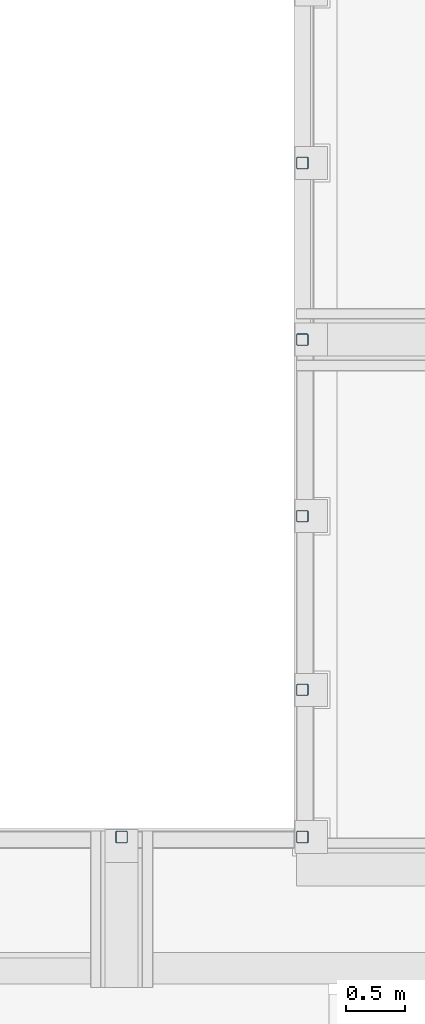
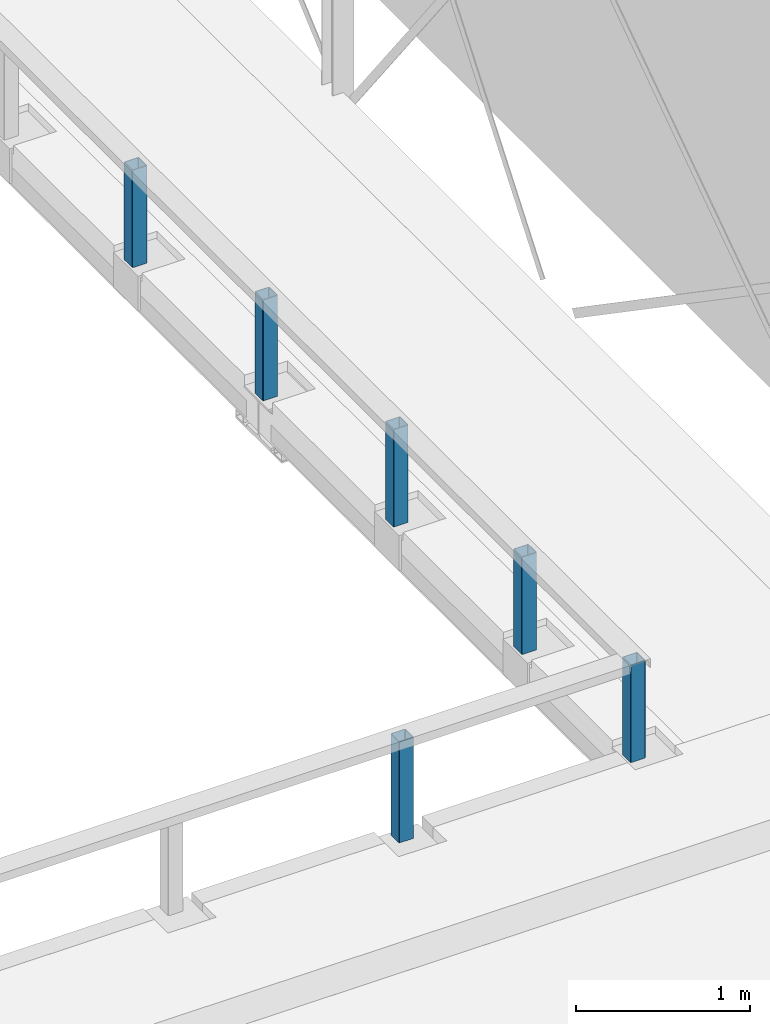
# One storey, part 11 of 68: 6 columns.
"""IFC2X3 building model written with IfcOpenShell, lengths in millimetres."""

from ifc_helpers import new_model, entity, si_unit, converted_unit, derived_unit, direction, frame, frame_2d, origin, place, context, subcontext, project, spatial, polyline, circle_curve, parameter, trimmed, segment, composite_curve, outline, extrude, source, transform, mapped, material, type_object, type_shapes, element, save


model = new_model("IFC2X3")

# Units and contexts
model_context = context("Model", 3, precision=0.01, world=origin(), true_north=direction((6.12303176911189e-17, 1.0)))
body_context = subcontext(model_context, "Body", "Model", "MODEL_VIEW")
ifc_project = project(units=[si_unit("LENGTHUNIT", "METRE", prefix="MILLI"), si_unit("AREAUNIT", "SQUARE_METRE", prefix="MILLI"), si_unit("VOLUMEUNIT", "CUBIC_METRE"), converted_unit("PLANEANGLEUNIT", "DEGREE", entity("IfcRatioMeasure", 0.0174532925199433), si_unit("PLANEANGLEUNIT", "RADIAN"), dimensions=[0, 0, 0, 0, 0, 0, 0]), si_unit("MASSUNIT", "GRAM", prefix="KILO"), derived_unit("MASSDENSITYUNIT", [(si_unit("MASSUNIT", "GRAM", prefix="KILO"), 1), (si_unit("LENGTHUNIT", "METRE"), -3)]), derived_unit("MOMENTOFINERTIAUNIT", [(si_unit("LENGTHUNIT", "METRE"), 4)]), si_unit("TIMEUNIT", "SECOND"), si_unit("FREQUENCYUNIT", "HERTZ"), si_unit("THERMODYNAMICTEMPERATUREUNIT", "DEGREE_CELSIUS"), derived_unit("THERMALTRANSMITTANCEUNIT", [(si_unit("MASSUNIT", "GRAM", prefix="KILO"), 1), (si_unit("THERMODYNAMICTEMPERATUREUNIT", "KELVIN"), -1), (si_unit("TIMEUNIT", "SECOND"), -3)]), derived_unit("VOLUMETRICFLOWRATEUNIT", [(si_unit("LENGTHUNIT", "METRE"), 3), (si_unit("TIMEUNIT", "SECOND"), -1)]), si_unit("ELECTRICCURRENTUNIT", "AMPERE"), si_unit("ELECTRICVOLTAGEUNIT", "VOLT"), si_unit("POWERUNIT", "WATT"), si_unit("FORCEUNIT", "NEWTON", prefix="KILO"), si_unit("ILLUMINANCEUNIT", "LUX"), si_unit("LUMINOUSFLUXUNIT", "LUMEN"), si_unit("LUMINOUSINTENSITYUNIT", "CANDELA"), derived_unit("USERDEFINED", [(si_unit("MASSUNIT", "GRAM", prefix="KILO"), -1), (si_unit("LENGTHUNIT", "METRE"), -2), (si_unit("TIMEUNIT", "SECOND"), 3), (si_unit("LUMINOUSFLUXUNIT", "LUMEN"), 1)]), derived_unit("LINEARVELOCITYUNIT", [(si_unit("LENGTHUNIT", "METRE"), 1), (si_unit("TIMEUNIT", "SECOND"), -1)]), si_unit("PRESSUREUNIT", "PASCAL"), derived_unit("USERDEFINED", [(si_unit("LENGTHUNIT", "METRE"), -2), (si_unit("MASSUNIT", "GRAM", prefix="KILO"), 1), (si_unit("TIMEUNIT", "SECOND"), -2)]), derived_unit("LINEARFORCEUNIT", [(si_unit("MASSUNIT", "GRAM", prefix="KILO"), 1), (si_unit("LENGTHUNIT", "METRE"), 1), (si_unit("TIMEUNIT", "SECOND"), -2), (si_unit("LENGTHUNIT", "METRE"), -1)]), derived_unit("PLANARFORCEUNIT", [(si_unit("MASSUNIT", "GRAM", prefix="KILO"), 1), (si_unit("LENGTHUNIT", "METRE"), 1), (si_unit("TIMEUNIT", "SECOND"), -2), (si_unit("LENGTHUNIT", "METRE"), -2)])], contexts=[model_context])

# Site, building, storey
site_placement = place(None, origin())
site = spatial("IfcSite", under=ifc_project, at=site_placement, Name="Theater aan de Parade", CompositionType="ELEMENT")
building_placement = place(site_placement, origin())
building = spatial("IfcBuilding", under=site, at=building_placement, Name="Theater aan de Parade", CompositionType="ELEMENT")
storey_placement = place(building_placement, frame((0.0, 0.0, 8750.0)))
storey = spatial("IfcBuildingStorey", under=building, at=storey_placement, Name="02 tweede verdieping", CompositionType="ELEMENT", Elevation=8750.0)

# Columns
ifc_material = material(Name="00_PBT_MAT_staal_S355")
column_type_1 = type_object("IfcColumnType", Name="28_PBT_SC_staal_koker:S355_K100x100x5", PredefinedType="COLUMN", material=ifc_material)
shared_shape_1 = source(origin(), body_context, "Body", "SweptSolid", [
    extrude(outline(composite_curve([segment(polyline([(-42.5, -50.0), (42.5, -50.0)]), True, "CONTINUOUS"), segment(trimmed(circle_curve(frame_2d((42.5, -42.5), x_axis=(0.0, 1.0)), 7.5), [parameter(180.0)], [parameter(270.0)], True, "PARAMETER"), True, "CONTINUOUS"), segment(polyline([(50.0, -42.5), (50.0, 42.5)]), True, "CONTINUOUS"), segment(trimmed(circle_curve(frame_2d((42.5, 42.5), x_axis=(0.0, 1.0)), 7.5), [parameter(270.0)], [parameter(360.0)], True, "PARAMETER"), True, "CONTINUOUS"), segment(polyline([(42.5, 50.0), (-42.5, 50.0)]), True, "CONTINUOUS"), segment(trimmed(circle_curve(frame_2d((-42.5, 42.5), x_axis=(0.0, 1.0)), 7.5), [parameter(0.0)], [parameter(90.0000000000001)], True, "PARAMETER"), True, "CONTINUOUS"), segment(polyline([(-50.0, 42.5), (-50.0, -42.5)]), True, "CONTINUOUS"), segment(trimmed(circle_curve(frame_2d((-42.5, -42.5), x_axis=(0.0, 1.0)), 7.5), [parameter(89.9999999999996)], [parameter(180.0)], True, "PARAMETER"), True, "CONTINUOUS")], self_intersect=False), holes=[composite_curve([segment(polyline([(45.0, 40.0), (45.0, -40.0)]), True, "CONTINUOUS"), segment(trimmed(circle_curve(frame_2d((40.0, -40.0), x_axis=(0.0, 1.0)), 5.0), [parameter(180.0)], [parameter(270.0)], True, "PARAMETER"), False, "CONTINUOUS"), segment(polyline([(40.0, -45.0), (-40.0, -45.0)]), True, "CONTINUOUS"), segment(trimmed(circle_curve(frame_2d((-40.0, -40.0), x_axis=(0.0, 1.0)), 5.0), [parameter(90.0)], [parameter(180.0)], True, "PARAMETER"), False, "CONTINUOUS"), segment(polyline([(-45.0, -40.0), (-45.0, 40.0)]), True, "CONTINUOUS"), segment(trimmed(circle_curve(frame_2d((-40.0, 40.0), x_axis=(0.0, 1.0)), 5.0), [parameter(4.07110999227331e-13)], [parameter(90.0000000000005)], True, "PARAMETER"), False, "CONTINUOUS"), segment(polyline([(-40.0, 45.0), (40.0, 45.0)]), True, "CONTINUOUS"), segment(trimmed(circle_curve(frame_2d((40.0, 40.0), x_axis=(0.0, 1.0)), 5.0), [parameter(270.0)], [parameter(0.0)], True, "PARAMETER"), False, "CONTINUOUS")], self_intersect=False)]), frame((0.0, 0.0, 8695.0), z_axis=(0.0, 0.0, 1.0), x_axis=(0.0, 1.0, 0.0)), (0.0, 0.0, 1.0), 708.000000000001),
])
type_shapes(column_type_1, [shared_shape_1])
for number, where, z_axis, x_axis in (
    (1, (34296.8569737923, 23568.2922985, -8750.0), (0.0, 0.0, 1.0), (-1.0, 0.0, 0.0)),
    (2, (32760.358192, 19343.3084468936, -8750.0), (0.0, 0.0, 1.0), (0.0, 1.0, 0.0)),
):
    element("IfcColumn", number, at=place(storey_placement, frame(where, z_axis=z_axis, x_axis=x_axis)), inside=storey, type_object=column_type_1, material=ifc_material, Name="28_PBT_SC_staal_koker:S355_K100x100x5", ObjectType="28_PBT_SC_staal_koker:S355_K100x100x5", context=body_context, shape_type="MappedRepresentation", body=[
        mapped(shared_shape_1, transform((0.0, 0.0, 0.0), scale=1.0)),
    ])
column_type_2 = type_object("IfcColumnType", Name="28_PBT_SC_staal_koker:S355_K100x100x5", PredefinedType="COLUMN", material=ifc_material)
shared_shape_2 = source(origin(), body_context, "Body", "SweptSolid", [
    extrude(outline(composite_curve([segment(polyline([(-42.5, -50.0), (42.5, -50.0)]), True, "CONTINUOUS"), segment(trimmed(circle_curve(frame_2d((42.5, -42.5), x_axis=(0.0, 1.0)), 7.5), [parameter(180.0)], [parameter(270.0)], True, "PARAMETER"), True, "CONTINUOUS"), segment(polyline([(50.0, -42.5), (50.0, 42.5)]), True, "CONTINUOUS"), segment(trimmed(circle_curve(frame_2d((42.5, 42.5), x_axis=(0.0, 1.0)), 7.5), [parameter(270.0)], [parameter(360.0)], True, "PARAMETER"), True, "CONTINUOUS"), segment(polyline([(42.5, 50.0), (-42.5, 50.0)]), True, "CONTINUOUS"), segment(trimmed(circle_curve(frame_2d((-42.5, 42.5), x_axis=(0.0, 1.0)), 7.5), [parameter(0.0)], [parameter(90.0000000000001)], True, "PARAMETER"), True, "CONTINUOUS"), segment(polyline([(-50.0, 42.5), (-50.0, -42.5)]), True, "CONTINUOUS"), segment(trimmed(circle_curve(frame_2d((-42.5, -42.5), x_axis=(0.0, 1.0)), 7.5), [parameter(89.9999999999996)], [parameter(180.0)], True, "PARAMETER"), True, "CONTINUOUS")], self_intersect=False), holes=[composite_curve([segment(polyline([(45.0, 40.0), (45.0, -40.0)]), True, "CONTINUOUS"), segment(trimmed(circle_curve(frame_2d((40.0, -40.0), x_axis=(0.0, 1.0)), 5.0), [parameter(180.0)], [parameter(270.0)], True, "PARAMETER"), False, "CONTINUOUS"), segment(polyline([(40.0, -45.0), (-40.0, -45.0)]), True, "CONTINUOUS"), segment(trimmed(circle_curve(frame_2d((-40.0, -40.0), x_axis=(0.0, 1.0)), 5.0), [parameter(90.0)], [parameter(180.0)], True, "PARAMETER"), False, "CONTINUOUS"), segment(polyline([(-45.0, -40.0), (-45.0, 40.0)]), True, "CONTINUOUS"), segment(trimmed(circle_curve(frame_2d((-40.0, 40.0), x_axis=(0.0, 1.0)), 5.0), [parameter(4.07110999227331e-13)], [parameter(90.0000000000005)], True, "PARAMETER"), False, "CONTINUOUS"), segment(polyline([(-40.0, 45.0), (40.0, 45.0)]), True, "CONTINUOUS"), segment(trimmed(circle_curve(frame_2d((40.0, 40.0), x_axis=(0.0, 1.0)), 5.0), [parameter(270.0)], [parameter(0.0)], True, "PARAMETER"), False, "CONTINUOUS")], self_intersect=False)]), frame((0.0, 0.0, 8720.0), z_axis=(0.0, 0.0, 1.0), x_axis=(0.0, 1.0, 0.0)), (0.0, 0.0, 1.0), 683.000000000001),
])
type_shapes(column_type_2, [shared_shape_2])
for number, where, z_axis, x_axis in (
    (3, (34296.8569737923, 25068.2922985, -8750.0), (0.0, 0.0, 1.0), (-1.0, 0.0, 0.0)),
    (4, (34296.8569737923, 22068.2922985, -8750.0), (0.0, 0.0, 1.0), (-1.0, 0.0, 0.0)),
    (5, (34296.8569737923, 20593.2922985, -8750.0), (0.0, 0.0, 1.0), (-1.0, 0.0, 0.0)),
    (6, (34296.8569737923, 19343.3084468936, -8750.0), (0.0, 0.0, 1.0), (-1.0, 0.0, 0.0)),
):
    element("IfcColumn", number, at=place(storey_placement, frame(where, z_axis=z_axis, x_axis=x_axis)), inside=storey, type_object=column_type_2, material=ifc_material, Name="28_PBT_SC_staal_koker:S355_K100x100x5", ObjectType="28_PBT_SC_staal_koker:S355_K100x100x5", context=body_context, shape_type="MappedRepresentation", body=[
        mapped(shared_shape_2, transform((0.0, 0.0, 0.0), scale=1.0)),
    ])

save(model, "model.ifc")
